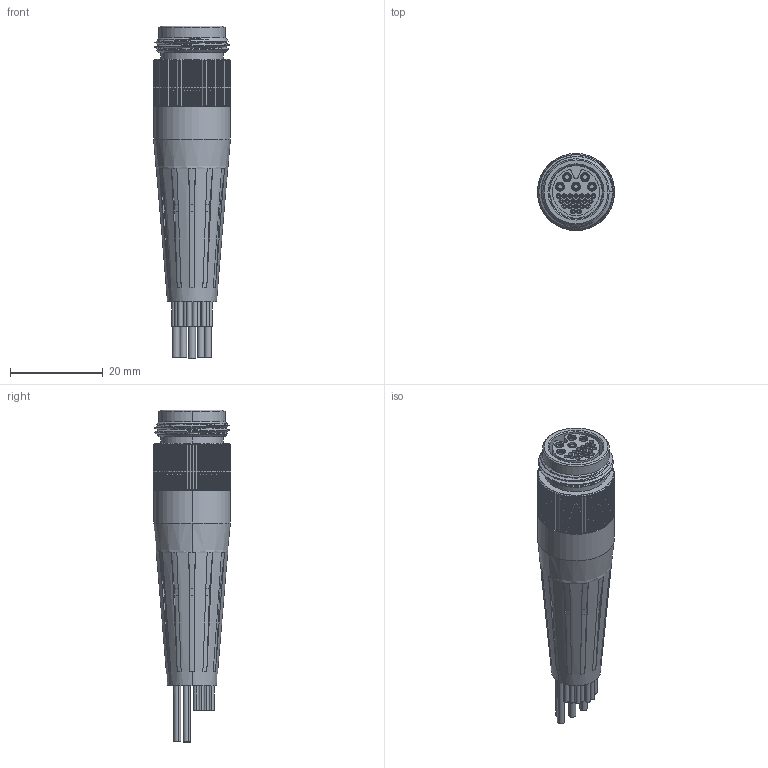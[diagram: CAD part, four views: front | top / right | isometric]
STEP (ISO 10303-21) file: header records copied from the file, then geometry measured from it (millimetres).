
FILE_DESCRIPTION (( 'STEP AP214' ), '1' );
FILE_NAME ('A90131-001 REV A.STEP', '2018-01-25T18:50:38', ( '' ), ( '' ), 'SwSTEP 2.0', 'SolidWorks 2017', '' );
FILE_SCHEMA (( 'AUTOMOTIVE_DESIGN' ));
Length unit declared in the file: inch
Products named in the file (1): A90131-001 REV_-
Bounding box: 16.58 x 16.59 x 71.41 mm (x, y, z)
Volume: 7639.7 mm3; surface area: 10228.3 mm2
Topology: 1 solids, 1 shells, 808 faces, 1984 edges, 1293 vertices
Faces by surface type: cylinder 382, plane 319, cone 78, torus 24, bspline 3, sphere 2
Entity records: 26319 total; most frequent: CARTESIAN_POINT 7291, ORIENTED_EDGE 3968, DIRECTION 3946, EDGE_CURVE 1984, AXIS2_PLACEMENT_3D 1634, VERTEX_POINT 1293, EDGE_LOOP 947, CIRCLE 828
